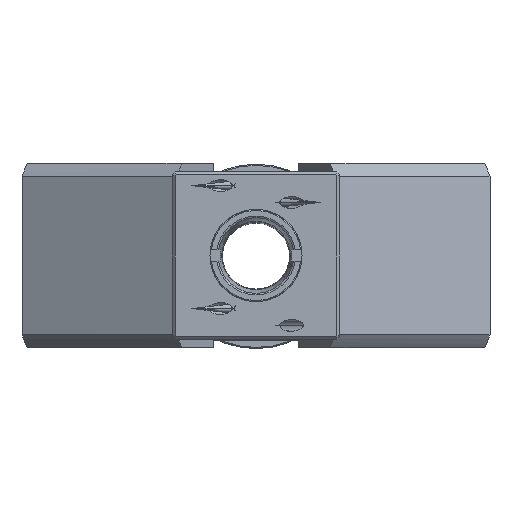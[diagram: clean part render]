
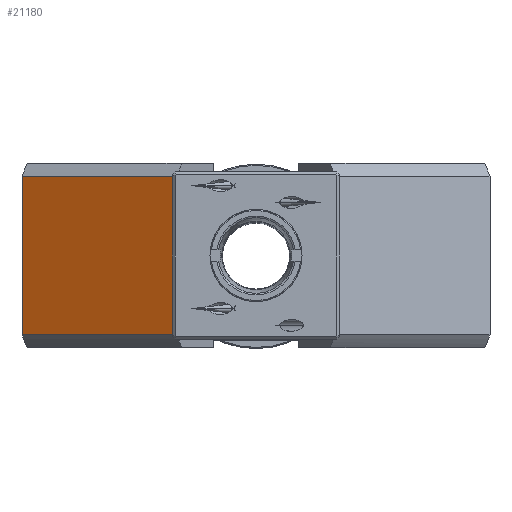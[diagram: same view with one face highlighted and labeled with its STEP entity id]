
A CAD part, top view. The second image highlights one B-rep face of the part: STEP entity #21180.
In plain terms, the highlighted planar face has unit normal (-0.5, 0, 0.866).
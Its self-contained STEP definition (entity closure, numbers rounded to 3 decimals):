
#1039 = ORIENTED_EDGE ( 'NONE', *, *, #16334, .T. ) ;
#2097 = CARTESIAN_POINT ( 'NONE',  ( -14.279, 14.151, -5.384 ) ) ;
#2146 = EDGE_CURVE ( 'NONE', #26274, #11163, #7159, .T. ) ;
#2331 = EDGE_CURVE ( 'NONE', #26274, #21294, #9994, .T. ) ;
#2555 = CARTESIAN_POINT ( 'NONE',  ( -41.89, -14.151, -21.325 ) ) ;
#4339 = ORIENTED_EDGE ( 'NONE', *, *, #6694, .F. ) ;
#6055 = CARTESIAN_POINT ( 'NONE',  ( -14.279, 14.151, -5.384 ) ) ;
#6694 = EDGE_CURVE ( 'NONE', #11163, #13312, #14770, .T. ) ;
#6881 = DIRECTION ( 'NONE',  ( -0.866, 0., -0.5 ) ) ;
#6913 = PLANE ( 'NONE',  #24861 ) ;
#7159 = LINE ( 'NONE', #23957, #12096 ) ;
#9218 = VECTOR ( 'NONE', #6881, 1000. ) ;
#9994 = B_SPLINE_CURVE_WITH_KNOTS ( 'NONE', 1,
 ( #2097, #20238 ),
 .UNSPECIFIED., .F., .F.,
 ( 2, 2 ),
 ( 0., 1. ),
 .UNSPECIFIED. ) ;
#11156 = DIRECTION ( 'NONE',  ( -0.866, 0., -0.5 ) ) ;
#11163 = VERTEX_POINT ( 'NONE', #15856 ) ;
#12096 = VECTOR ( 'NONE', #20247, 1000. ) ;
#12716 = EDGE_LOOP ( 'NONE', ( #24138, #1039, #4339, #17147 ) ) ;
#13312 = VERTEX_POINT ( 'NONE', #2555 ) ;
#13761 = FACE_OUTER_BOUND ( 'NONE', #12716, .T. ) ;
#14770 = LINE ( 'NONE', #19436, #9218 ) ;
#15739 = CARTESIAN_POINT ( 'NONE',  ( -41.89, 14.151, -21.325 ) ) ;
#15856 = CARTESIAN_POINT ( 'NONE',  ( -14.279, -14.151, -5.384 ) ) ;
#16334 = EDGE_CURVE ( 'NONE', #21294, #13312, #25250, .T. ) ;
#17147 = ORIENTED_EDGE ( 'NONE', *, *, #2146, .F. ) ;
#17379 = CARTESIAN_POINT ( 'NONE',  ( -14.279, 14.151, -5.384 ) ) ;
#17847 = CARTESIAN_POINT ( 'NONE',  ( -41.89, -14.151, -21.325 ) ) ;
#19436 = CARTESIAN_POINT ( 'NONE',  ( -28.034, -14.151, -13.325 ) ) ;
#20238 = CARTESIAN_POINT ( 'NONE',  ( -41.89, 14.151, -21.325 ) ) ;
#20247 = DIRECTION ( 'NONE',  ( 0., -1., 0. ) ) ;
#21180 = ADVANCED_FACE ( 'NONE', ( #13761 ), #6913, .T. ) ;
#21294 = VERTEX_POINT ( 'NONE', #26077 ) ;
#23642 = DIRECTION ( 'NONE',  ( -0.5, 0., 0.866 ) ) ;
#23957 = CARTESIAN_POINT ( 'NONE',  ( -14.279, 0., -5.384 ) ) ;
#24138 = ORIENTED_EDGE ( 'NONE', *, *, #2331, .T. ) ;
#24861 = AXIS2_PLACEMENT_3D ( 'NONE', #17379, #23642, #11156 ) ;
#25250 = B_SPLINE_CURVE_WITH_KNOTS ( 'NONE', 1,
 ( #15739, #17847 ),
 .UNSPECIFIED., .F., .F.,
 ( 2, 2 ),
 ( 0., 1. ),
 .UNSPECIFIED. ) ;
#26077 = CARTESIAN_POINT ( 'NONE',  ( -41.89, 14.151, -21.325 ) ) ;
#26274 = VERTEX_POINT ( 'NONE', #6055 ) ;
